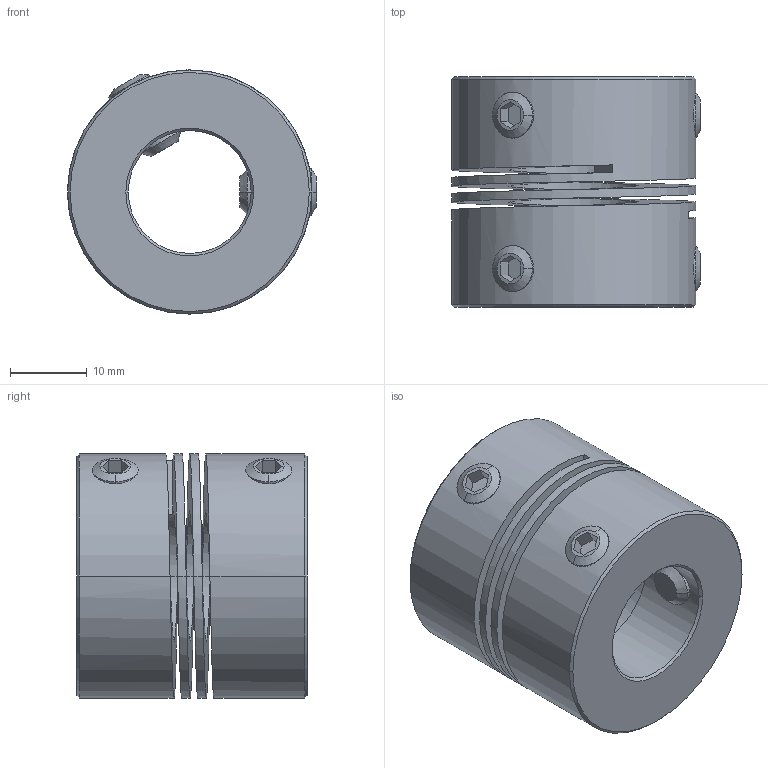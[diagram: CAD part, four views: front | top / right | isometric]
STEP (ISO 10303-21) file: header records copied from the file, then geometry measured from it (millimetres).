
FILE_DESCRIPTION((''),'2;1');
FILE_NAME('820_32_ASM','2006-12-06T',('Gary Melling'),(''),'PRO/ENGINEER BY PARAMETRIC TECHNOLOGY CORPORATION, 2006240','PRO/ENGINEER BY PARAMETRIC TECHNOLOGY CORPORATION, 2006240','');
FILE_SCHEMA(('CONFIG_CONTROL_DESIGN'));
Length unit declared in the file: millimetre
Products named in the file (3): 820_32; GS_6M; 820_32_ASM
Assembly tree (5 placements, depth 2):
  820_32_ASM
    820_32
    GS_6M  x4
Bounding box: 32.4 x 30 x 31.8 mm (x, y, z)
Volume: 16013.8 mm3; surface area: 9895.8 mm2
Topology: 5 solids, 5 shells, 102 faces, 252 edges, 160 vertices
Faces by surface type: plane 42, cylinder 34, cone 24, bspline 2
Entity records: 2911 total; most frequent: CARTESIAN_POINT 1420, ORIENTED_EDGE 312, DIRECTION 262, EDGE_CURVE 156, VERTEX_POINT 100, AXIS2_PLACEMENT_3D 95, VECTOR 72, LINE 72
